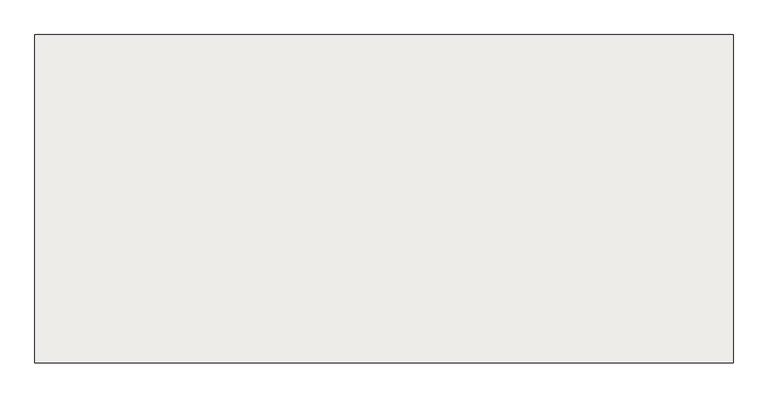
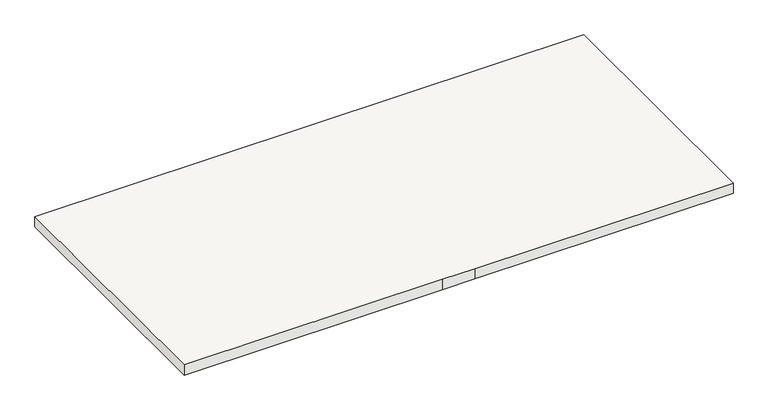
"""IFC4 building model written with IfcOpenShell, lengths in millimetres: slab geometry, Landing_Non-Monolithic_SameAsRun_Generic."""

from ifc_helpers import new_model, si_unit, frame, origin, place, context, project, spatial, polyline, outline, extrude, source, transform, mapped, element, save


def slab_b5527e81(model_context):
    return source(origin(), model_context, "Body", "SweptSolid", [
        extrude(outline(polyline([(422401.3206883, -388274.0026386), (422401.3206883, -387074.0026386), (424951.3206883, -387074.0026386), (424951.3206883, -388274.0026386), (423751.3206883, -388274.0026386), (423601.3206883, -388274.0026386), (422401.3206883, -388274.0026386)])), frame((0.0, 0.0, 2200.0), z_axis=(0.0, 0.0, 1.0), x_axis=(1.0, 0.0, 0.0)), (0.0, 0.0, 1.0), 50.0),
    ])


if __name__ == "__main__":
    model = new_model("IFC4")
    model_context = context("Model", 3, world=origin())
    ifc_project = project(units=[si_unit("LENGTHUNIT", "METRE", prefix="MILLI")], contexts=[model_context])
    site = spatial("IfcSite", under=ifc_project)
    building = spatial("IfcBuilding", under=site)
    placement = place(None, origin())
    slab_shape = slab_b5527e81(model_context)
    element("IfcSlab", 1, ObjectType="Landing_Non-Monolithic_SameAsRun_Generic", at=placement, inside=building, context=model_context, shape_type="MappedRepresentation", body=[
        mapped(slab_shape, transform((0.0, 0.0, 0.0), x_axis=(1.0, 0.0, 0.0), y_axis=(0.0, 1.0, 0.0), z_axis=(0.0, 0.0, 1.0))),
    ])
    save(model, "model.ifc")
